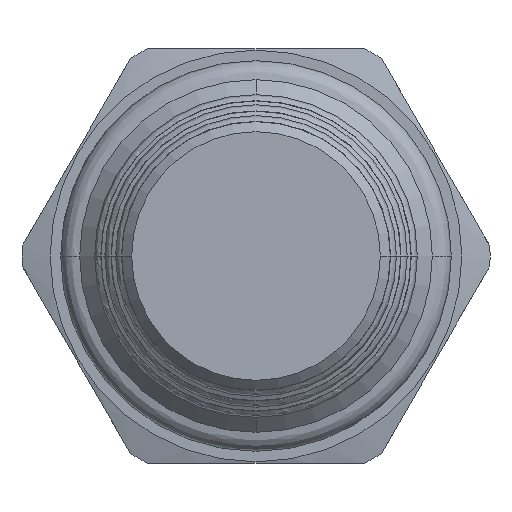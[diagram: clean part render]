
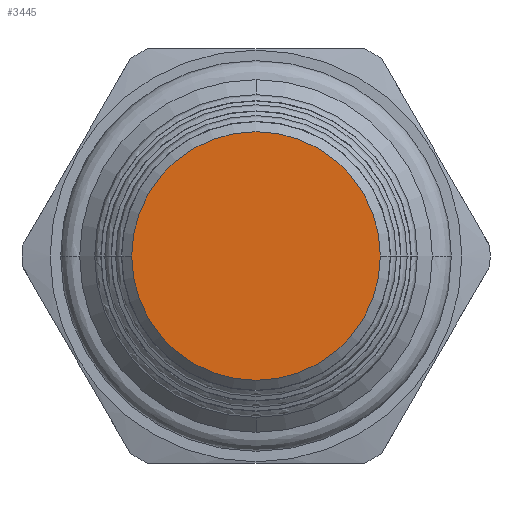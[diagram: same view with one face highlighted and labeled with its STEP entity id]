
A CAD part, front view. The second image highlights one B-rep face of the part: STEP entity #3445.
In plain terms, the highlighted planar face has unit normal (0, -1, 0).
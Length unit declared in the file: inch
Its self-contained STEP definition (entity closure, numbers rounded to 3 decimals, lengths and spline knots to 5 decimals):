
#1244=CARTESIAN_POINT('',(0.,-3.75,0.));
#1245=DIRECTION('',(0.,-1.,0.));
#1246=DIRECTION('',(-1.,0.,0.));
#1247=AXIS2_PLACEMENT_3D('',#1244,#1245,#1246);
#1262=CARTESIAN_POINT('',(0.,-3.75,0.));
#1263=DIRECTION('',(0.,1.,0.));
#1264=DIRECTION('',(-1.,0.,0.));
#1265=AXIS2_PLACEMENT_3D('',#1262,#1263,#1264);
#1459=CARTESIAN_POINT('',(-0.3745,-3.75,0.));
#1460=CARTESIAN_POINT('',(0.3745,-3.75,0.));
#1461=VERTEX_POINT('',#1459);
#1462=VERTEX_POINT('',#1460);
#3435=CARTESIAN_POINT('',(0.,-3.75,0.));
#3436=DIRECTION('',(0.,1.,0.));
#3437=DIRECTION('',(1.,0.,0.));
#3438=AXIS2_PLACEMENT_3D('',#3435,#3436,#3437);
#3439=PLANE('',#3438);
#3440=ORIENTED_EDGE('',*,*,#3425,.F.);
#3442=ORIENTED_EDGE('',*,*,#3441,.T.);
#3443=EDGE_LOOP('',(#3440,#3442));
#3444=FACE_OUTER_BOUND('',#3443,.F.);
#3445=ADVANCED_FACE('',(#3444),#3439,.F.);
#1248=CIRCLE('',#1247,0.3745);
#1266=CIRCLE('',#1265,0.3745);
#3425=EDGE_CURVE('',#1461,#1462,#1248,.T.);
#3441=EDGE_CURVE('',#1461,#1462,#1266,.T.);
